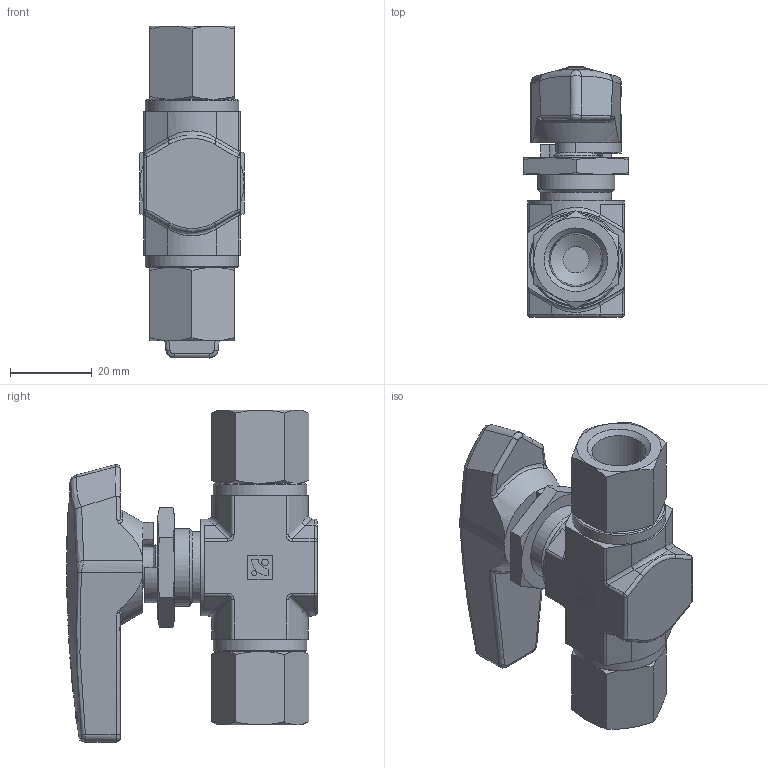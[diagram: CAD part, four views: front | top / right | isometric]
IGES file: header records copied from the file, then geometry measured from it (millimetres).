
Global section: file name: SBVF3602-F4N; native system: Autodesk Inventor 2016; preprocessor: unknown; author: DESIGNPC2; date: 20160611.112310; units: millimetre
Bounding box: 25.4 x 61.2 x 81 mm (x, y, z)
Volume: 48787.6 mm3; surface area: 17190.1 mm2
Topology: 5 solids, 5 shells, 489 faces, 1245 edges, 799 vertices
Faces by surface type: bspline 489
